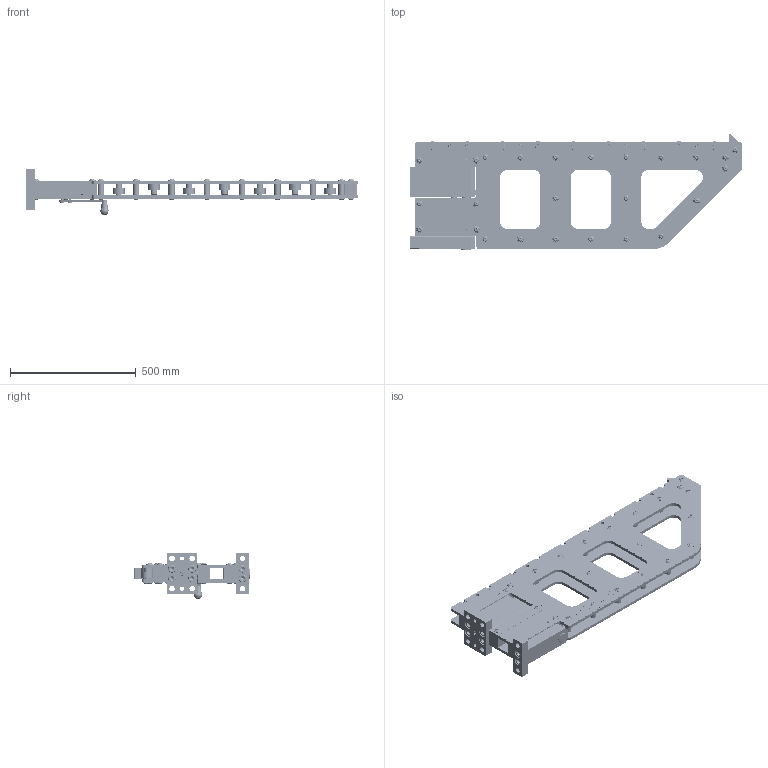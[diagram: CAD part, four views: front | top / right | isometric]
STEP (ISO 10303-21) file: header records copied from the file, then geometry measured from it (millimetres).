
FILE_DESCRIPTION(/* description */ ('CONSOLE PLATE RIGHT'),/* implementation_level */ '2;1');
FILE_NAME(/* name */ 'C:\Users\jaccow\AppData\Local\Temp\Cadac\NetworkPub\step\FB722-950.iam.stp',/* time_stamp */ '2017-12-14T13:41:48+01:00',/* author */ ('yue'),/* organization */ (''),/* preprocessor_version */ 'ST-DEVELOPER v16.1',/* originating_system */ 'Autodesk Inventor 2016',/* authorisation */ '');
FILE_SCHEMA (('AUTOMOTIVE_DESIGN { 1 0 10303 214 3 1 1 }'));
Products named in the file (40): FB726-101; FB698-186; CCE1230-028-9A; FB838-690; FB710-690; FB704-044; FB701-104; FB702-104; DQ1513-281; FB727-101; DQ1533-120; CAE1120-1081A; FB873-026; FB874-026; FB834-298; FB724-950; FB646-101; FB837-690; CCA2031-0281A; FB647-070; PP0327-070; CAA1635-0612C; PP0329-155; PP0137-155; CBA1025-0281B; FB649-061; PP0140-110; PP0305-108; PP0379-130; PP0380-108; FB650-950; PP0310-071; FB705-104; CCA819-0285C; FB707-101; FB713-690; CCA2033-0281A; FB712-950; FB709-104; FB722-950
Assembly tree (152 placements, depth 3):
  FB722-950
    FB724-950
      FB726-101  x2
      FB698-186  x18
      CCE1230-028-9A  x54
      FB838-690
      FB710-690  x2
      FB704-044
      FB701-104  x7
      FB702-104  x9
      DQ1513-281  x9
      FB727-101
      DQ1533-120  x4
      CAE1120-1081A  x4
      FB873-026
      FB874-026
      FB834-298
    FB650-950
      FB646-101
      FB837-690
      CCA2031-0281A  x4
      FB647-070
      PP0327-070
      CAA1635-0612C
      PP0329-155  x2
      PP0137-155
      CBA1025-0281B
      FB649-061
      PP0140-110
      PP0305-108  x2
      PP0379-130  x2
      PP0380-108  x2
    PP0310-071  x2
    FB705-104
    CCA819-0285C  x4
    FB712-950
      FB707-101
      FB713-690
      CCA2033-0281A  x2
      PP0329-155
    FB709-104
Bounding box: 1318 x 461.67 x 184 mm (x, y, z)
Volume: 15090952.1 mm3; surface area: 3430304.9 mm2
Topology: 189 solids, 189 shells, 5675 faces, 13484 edges, 8720 vertices
Faces by surface type: plane 3066, bspline 1045, cylinder 688, cone 645, torus 230, sphere 1
Full cylindrical faces by diameter (mm): 1.541 x9, 3 x2, 3.4 x9, 6.466 x2, 6.647 x6, 6.648 x1, 8 x6, 8.376 x1, 8.4 x1, 9.42 x2, 10 x9, 10.1 x1, 10.106 x25, 10.5 x5, 11.5 x2, 12 x58, 13 x4, 13.5 x48, 14 x1, 15 x1, 16 x4, 16.1 x3, 17.294 x6, 19.95 x7, 20 x45, 20.1 x1, 21 x4, 21.5 x12, 22.425 x1, 24 x4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
Entity records: 111486 total; most frequent: CARTESIAN_POINT 33267, ORIENTED_EDGE 17052, DIRECTION 12628, EDGE_CURVE 8517, LINE 5874, VECTOR 5874, VERTEX_POINT 5809, EDGE_LOOP 4175
